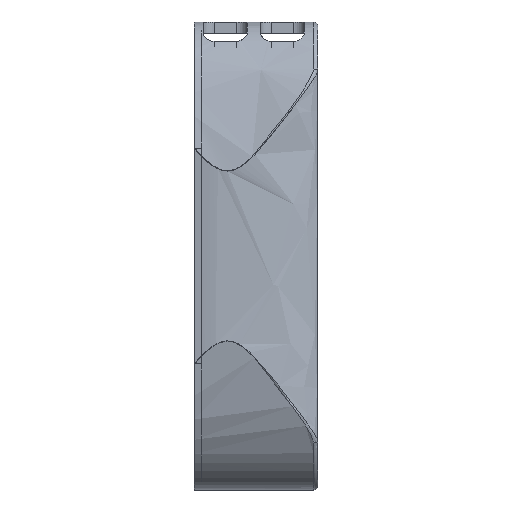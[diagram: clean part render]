
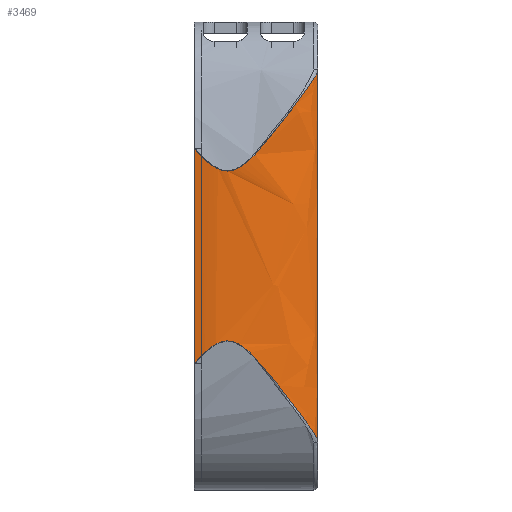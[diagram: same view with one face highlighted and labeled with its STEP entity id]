
A CAD part, left-side view. The second image highlights one B-rep face of the part: STEP entity #3469.
In plain terms, the highlighted free-form (B-spline) face has degree [3, 1] with [7, 2] control points.
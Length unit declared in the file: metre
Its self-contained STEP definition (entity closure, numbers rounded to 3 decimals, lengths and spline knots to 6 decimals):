
#25=B_SPLINE_SURFACE_WITH_KNOTS('',3,1,((#6200,#6201),(#6202,#6203),(#6204,
#6205),(#6206,#6207),(#6208,#6209),(#6210,#6211),(#6212,#6213)),
 .SURF_OF_LINEAR_EXTRUSION.,.F.,.F.,.F.,(4,1,1,1,4),(2,2),(0.,0.156131,
0.312263,0.468394,0.624526),(0.,1.),
 .UNSPECIFIED.);
#83=B_SPLINE_CURVE_WITH_KNOTS('',3,(#6214,#6215,#6216,#6217,#6218,#6219,
#6220,#6221,#6222,#6223,#6224,#6225,#6226,#6227,#6228,#6229,#6230,#6231,
#6232,#6233,#6234,#6235,#6236,#6237,#6238),.UNSPECIFIED.,.F.,.F.,(4,1,1,
1,1,1,1,1,1,1,1,1,1,1,1,1,1,1,1,1,1,1,4),(0.,0.000653,
0.001306,0.002612,0.003917,0.005223,
0.007835,0.010446,0.013058,0.01567,
0.018281,0.020893,0.023505,0.026116,
0.028728,0.030034,0.031339,0.032645,
0.033951,0.035257,0.036563,0.039174,
0.041786),.UNSPECIFIED.);
#84=B_SPLINE_CURVE_WITH_KNOTS('',3,(#6239,#6240,#6241,#6242,#6243,#6244,
#6245,#6246,#6247,#6248,#6249,#6250,#6251,#6252,#6253,#6254,#6255,#6256,
#6257,#6258,#6259,#6260,#6261,#6262),.UNSPECIFIED.,.F.,.F.,(4,1,1,1,1,1,
1,1,1,1,1,1,1,1,1,1,1,1,1,1,1,4),(0.,0.0026,0.005201,
0.006501,0.007801,0.009101,0.010402,
0.013002,0.015602,0.018203,0.020803,
0.023404,0.026004,0.028604,0.031205,
0.033805,0.036405,0.037706,0.039006,
0.040306,0.040956,0.041606),.UNSPECIFIED.);
#101=LINE('',#4782,#383);
#210=LINE('',#5421,#492);
#383=VECTOR('',#3867,1.);
#492=VECTOR('',#4122,1.);
#1605=ORIENTED_EDGE('',*,*,#1936,.F.);
#1606=ORIENTED_EDGE('',*,*,#2177,.T.);
#1607=ORIENTED_EDGE('',*,*,#1738,.T.);
#1608=ORIENTED_EDGE('',*,*,#2178,.T.);
#1738=EDGE_CURVE('',#2220,#2221,#101,.T.);
#1936=EDGE_CURVE('',#2396,#2397,#210,.T.);
#2177=EDGE_CURVE('',#2396,#2220,#83,.T.);
#2178=EDGE_CURVE('',#2221,#2397,#84,.T.);
#2220=VERTEX_POINT('',#4783);
#2221=VERTEX_POINT('',#4784);
#2396=VERTEX_POINT('',#5420);
#2397=VERTEX_POINT('',#5422);
#2932=EDGE_LOOP('',(#1605,#1606,#1607,#1608));
#3202=FACE_BOUND('',#2932,.T.);
#3469=ADVANCED_FACE('',(#3202),#25,.T.);
#3867=DIRECTION('',(0.,0.,-1.));
#4122=DIRECTION('',(0.,0.,-1.));
#4782=CARTESIAN_POINT('',(-0.127361,0.028,0.257001));
#4783=CARTESIAN_POINT('',(-0.127361,0.028,0.024289));
#4784=CARTESIAN_POINT('',(-0.127361,0.028,-0.024289));
#5420=CARTESIAN_POINT('',(-0.12145,0.,0.041895));
#5421=CARTESIAN_POINT('',(-0.12145,0.,0.257001));
#5422=CARTESIAN_POINT('',(-0.12145,0.,-0.041895));
#6200=CARTESIAN_POINT('',(-0.12145,0.,0.042398));
#6201=CARTESIAN_POINT('',(-0.12145,0.,-0.042398));
#6202=CARTESIAN_POINT('',(-0.122387,0.,0.042398));
#6203=CARTESIAN_POINT('',(-0.122387,0.,-0.042398));
#6204=CARTESIAN_POINT('',(-0.124359,0.001999,0.042398));
#6205=CARTESIAN_POINT('',(-0.124359,0.001999,-0.042398));
#6206=CARTESIAN_POINT('',(-0.126872,0.009121,0.042398));
#6207=CARTESIAN_POINT('',(-0.126872,0.009121,-0.042398));
#6208=CARTESIAN_POINT('',(-0.12824,0.018496,0.042398));
#6209=CARTESIAN_POINT('',(-0.12824,0.018496,-0.042398));
#6210=CARTESIAN_POINT('',(-0.127827,0.024998,0.042398));
#6211=CARTESIAN_POINT('',(-0.127827,0.024998,-0.042398));
#6212=CARTESIAN_POINT('',(-0.127361,0.028,0.042398));
#6213=CARTESIAN_POINT('',(-0.127361,0.028,-0.042398));
#6214=CARTESIAN_POINT('',(-0.12145,0.,0.041895));
#6215=CARTESIAN_POINT('',(-0.121648,0.,0.041805));
#6216=CARTESIAN_POINT('',(-0.122018,0.000092,0.041568));
#6217=CARTESIAN_POINT('',(-0.122557,0.000401,0.040948));
#6218=CARTESIAN_POINT('',(-0.123074,0.000882,0.040114));
#6219=CARTESIAN_POINT('',(-0.123584,0.001526,0.039111));
#6220=CARTESIAN_POINT('',(-0.12418,0.002452,0.037765));
#6221=CARTESIAN_POINT('',(-0.124804,0.003682,0.036089));
#6222=CARTESIAN_POINT('',(-0.125425,0.005208,0.034077));
#6223=CARTESIAN_POINT('',(-0.125952,0.006762,0.032052));
#6224=CARTESIAN_POINT('',(-0.126402,0.008329,0.030025));
#6225=CARTESIAN_POINT('',(-0.126787,0.009914,0.028002));
#6226=CARTESIAN_POINT('',(-0.127119,0.011531,0.025994));
#6227=CARTESIAN_POINT('',(-0.127402,0.013205,0.024026));
#6228=CARTESIAN_POINT('',(-0.12764,0.014987,0.022137));
#6229=CARTESIAN_POINT('',(-0.1278,0.016641,0.020706));
#6230=CARTESIAN_POINT('',(-0.127893,0.018122,0.019807));
#6231=CARTESIAN_POINT('',(-0.127941,0.019339,0.019331));
#6232=CARTESIAN_POINT('',(-0.127956,0.020654,0.019175));
#6233=CARTESIAN_POINT('',(-0.127932,0.021959,0.019419));
#6234=CARTESIAN_POINT('',(-0.127878,0.023164,0.01996));
#6235=CARTESIAN_POINT('',(-0.127778,0.024615,0.020908));
#6236=CARTESIAN_POINT('',(-0.127613,0.026246,0.022368));
#6237=CARTESIAN_POINT('',(-0.12745,0.027425,0.023639));
#6238=CARTESIAN_POINT('',(-0.127361,0.028,0.024289));
#6239=CARTESIAN_POINT('',(-0.127361,0.028,-0.024289));
#6240=CARTESIAN_POINT('',(-0.12745,0.027427,-0.023641));
#6241=CARTESIAN_POINT('',(-0.127612,0.026254,-0.022377));
#6242=CARTESIAN_POINT('',(-0.127776,0.024635,-0.020924));
#6243=CARTESIAN_POINT('',(-0.127877,0.023185,-0.019971));
#6244=CARTESIAN_POINT('',(-0.127931,0.021988,-0.019429));
#6245=CARTESIAN_POINT('',(-0.127956,0.020691,-0.019177));
#6246=CARTESIAN_POINT('',(-0.127937,0.018941,-0.019369));
#6247=CARTESIAN_POINT('',(-0.127832,0.016975,-0.020418));
#6248=CARTESIAN_POINT('',(-0.127644,0.01502,-0.022106));
#6249=CARTESIAN_POINT('',(-0.127406,0.01323,-0.023996));
#6250=CARTESIAN_POINT('',(-0.127123,0.011553,-0.025968));
#6251=CARTESIAN_POINT('',(-0.126791,0.00993,-0.027982));
#6252=CARTESIAN_POINT('',(-0.126405,0.008341,-0.03001));
#6253=CARTESIAN_POINT('',(-0.125955,0.006772,-0.032038));
#6254=CARTESIAN_POINT('',(-0.12543,0.00522,-0.03406));
#6255=CARTESIAN_POINT('',(-0.124807,0.003689,-0.036081));
#6256=CARTESIAN_POINT('',(-0.124184,0.002458,-0.037757));
#6257=CARTESIAN_POINT('',(-0.123591,0.001535,-0.039098));
#6258=CARTESIAN_POINT('',(-0.123079,0.000887,-0.040105));
#6259=CARTESIAN_POINT('',(-0.122558,0.000403,-0.040946));
#6260=CARTESIAN_POINT('',(-0.12202,0.000093,-0.041567));
#6261=CARTESIAN_POINT('',(-0.121647,0.,-0.041805));
#6262=CARTESIAN_POINT('',(-0.12145,0.,-0.041895));
